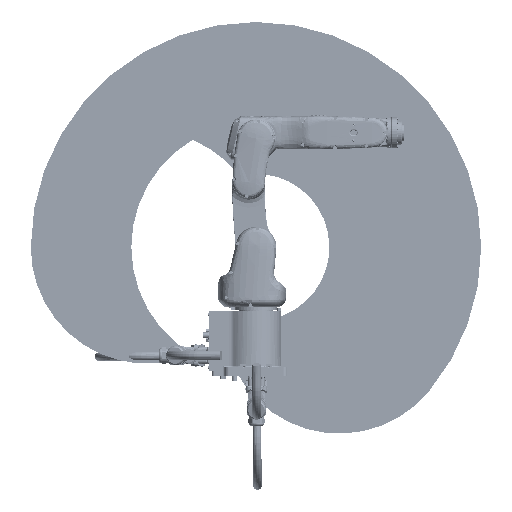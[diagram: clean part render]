
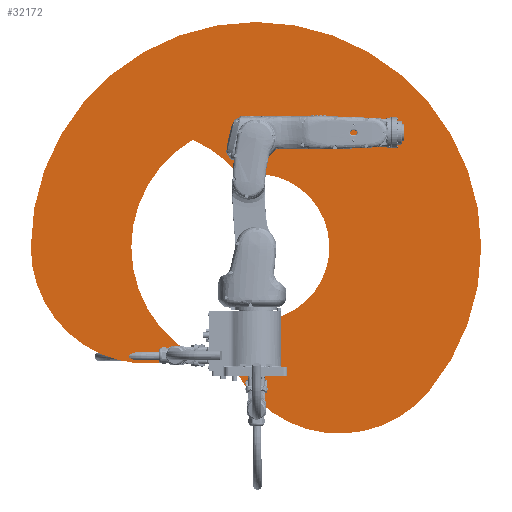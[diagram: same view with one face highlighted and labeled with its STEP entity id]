
A CAD part, front view. The second image highlights one B-rep face of the part: STEP entity #32172.
In plain terms, the highlighted planar face has unit normal (0, -1, 0) as drawn and (0, 0, 1) by its records, which use the part's own axes.
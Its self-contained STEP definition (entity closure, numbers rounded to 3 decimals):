
#5872=PLANE('',#101681);
#12083=FACE_OUTER_BOUND('',#41027,.T.);
#15741=CIRCLE('',#101675,300.375);
#15742=CIRCLE('',#101676,321.36);
#15743=CIRCLE('',#101677,300.375);
#15744=CIRCLE('',#101678,189.205);
#15745=CIRCLE('',#101679,300.375);
#15746=CIRCLE('',#101680,580.375);
#32172=ADVANCED_FACE('',(#12083),#5872,.T.);
#41027=EDGE_LOOP('',(#67292,#67293,#67294,#67295,#67296,#67297));
#67292=ORIENTED_EDGE('',*,*,#88913,.T.);
#67293=ORIENTED_EDGE('',*,*,#88914,.T.);
#67294=ORIENTED_EDGE('',*,*,#88915,.T.);
#67295=ORIENTED_EDGE('',*,*,#88916,.T.);
#67296=ORIENTED_EDGE('',*,*,#88917,.T.);
#67297=ORIENTED_EDGE('',*,*,#88918,.T.);
#75775=VERTEX_POINT('',#420021);
#75776=VERTEX_POINT('',#420022);
#75777=VERTEX_POINT('',#420024);
#75778=VERTEX_POINT('',#420026);
#75779=VERTEX_POINT('',#420028);
#75780=VERTEX_POINT('',#420030);
#88913=EDGE_CURVE('',#75775,#75776,#15741,.T.);
#88914=EDGE_CURVE('',#75776,#75777,#15742,.T.);
#88915=EDGE_CURVE('',#75777,#75778,#15743,.T.);
#88916=EDGE_CURVE('',#75778,#75779,#15744,.T.);
#88917=EDGE_CURVE('',#75779,#75780,#15745,.T.);
#88918=EDGE_CURVE('',#75780,#75775,#15746,.T.);
#101675=AXIS2_PLACEMENT_3D('',#420020,#123779,#123780);
#101676=AXIS2_PLACEMENT_3D('',#420023,#123781,#123782);
#101677=AXIS2_PLACEMENT_3D('',#420025,#123783,#123784);
#101678=AXIS2_PLACEMENT_3D('',#420027,#123785,#123786);
#101679=AXIS2_PLACEMENT_3D('',#420029,#123787,#123788);
#101680=AXIS2_PLACEMENT_3D('',#420031,#123789,#123790);
#101681=AXIS2_PLACEMENT_3D('',#420032,#123791,#123792);
#123779=DIRECTION('',(0.,0.,1.));
#123780=DIRECTION('',(1.,0.,0.));
#123781=DIRECTION('',(0.,0.,-1.));
#123782=DIRECTION('',(1.,0.,0.));
#123783=DIRECTION('',(0.,0.,-1.));
#123784=DIRECTION('',(1.,0.,0.));
#123785=DIRECTION('',(0.,0.,-1.));
#123786=DIRECTION('',(1.,0.,0.));
#123787=DIRECTION('',(0.,0.,1.));
#123788=DIRECTION('',(1.,0.,0.));
#123789=DIRECTION('',(0.,0.,1.));
#123790=DIRECTION('',(1.,0.,0.));
#123791=DIRECTION('',(0.,0.,1.));
#123792=DIRECTION('',(1.,0.,0.));
#420020=CARTESIAN_POINT('',(320.723,491.776,0.));
#420021=CARTESIAN_POINT('',(20.348,491.776,0.));
#420022=CARTESIAN_POINT('',(437.424,214.999,0.));
#420023=CARTESIAN_POINT('',(600.723,491.776,0.));
#420024=CARTESIAN_POINT('',(437.424,768.554,0.));
#420025=CARTESIAN_POINT('',(320.723,491.776,0.));
#420026=CARTESIAN_POINT('',(557.965,676.007,0.));
#420027=CARTESIAN_POINT('',(600.723,491.697,0.));
#420028=CARTESIAN_POINT('',(515.05,322.999,0.));
#420029=CARTESIAN_POINT('',(815.215,311.796,0.));
#420030=CARTESIAN_POINT('',(1045.316,118.718,0.));
#420031=CARTESIAN_POINT('',(600.723,491.776,0.));
#420032=CARTESIAN_POINT('',(460.723,491.776,0.));
